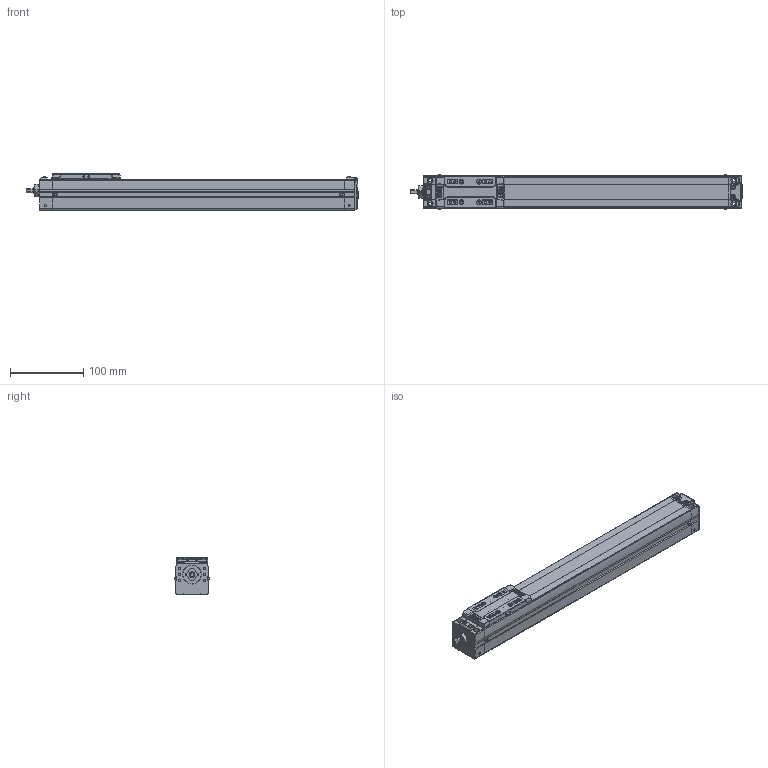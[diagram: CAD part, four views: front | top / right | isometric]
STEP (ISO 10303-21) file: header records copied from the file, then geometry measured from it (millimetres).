
FILE_DESCRIPTION(('STEP AP214'),'1');
FILE_NAME('Z:/Web/3D/SAN45/STP/SAN45ㅁㅁ-300.stp','2012-06-15T05:13:01',(' '),(' '),'Spatial InterOp 3D',' ',' ');
FILE_SCHEMA(('automotive_design'));
Length unit declared in the file: metre
Products named in the file (27): SAN45__-300; BODY-SAN45; REAR-SAN45; RRCV-SAN45; BHCS M3 x 6L; BHCS M3 X 6L; FRONT-SAN45; SHAFT; RN8 x 0.75; SSFX-SAN45; SLIDE-SAN45; SLCV-IM45; FHCS M3 x 6L
Assembly tree (26 placements, depth 3):
  SAN45__-300
    BODY-SAN45
    REAR-SAN45
      REAR-SAN45
      RRCV-SAN45
      BHCS M3 x 6L
      BHCS M3 X 6L
      BHCS M3 x 6L
      BHCS M3 x 6L
      BHCS M3 x 6L
      BHCS M3 x 6L
    FRONT-SAN45
      FRONT-SAN45
      SHAFT
      RN8 x 0.75
      SSFX-SAN45
      BHCS M3 x 6L
      BHCS M3 x 6L
      BHCS M3 x 6L
      BHCS M3 x 6L
    SLIDE-SAN45
      SLIDE-SAN45
      SLCV-IM45
      FHCS M3 x 6L
      FHCS M3 x 6L
      FHCS M3 x 6L
      FHCS M3 x 6L
Bounding box: 454.65 x 47.13 x 50 mm (x, y, z)
Volume: 805537.3 mm3; surface area: 127333.1 mm2
Topology: 23 solids, 23 shells, 1367 faces, 3517 edges, 2285 vertices
Faces by surface type: plane 838, cylinder 391, cone 66, bspline 38, sphere 22, torus 9, extrusion 3
Full cylindrical faces by diameter (mm): 0.376 x2, 0.47 x1, 1.137 x2, 1.421 x1, 1.665 x4, 2.081 x2, 2.2 x4, 2.5 x13, 3 x6, 3.193 x4, 3.3 x4, 3.4 x4, 3.5 x6, 3.991 x2, 4.2 x9, 4.5 x4, 5 x3, 6 x6, 7 x1, 8 x8, 13 x1, 15 x1, 19 x1
Entity records: 55498 total; most frequent: CARTESIAN_POINT 10968, DIRECTION 6888, ORIENTED_EDGE 6594, EDGE_CURVE 3297, AXIS2_PLACEMENT_3D 2311, VECTOR 2266, LINE 2263, VERTEX_POINT 2241
